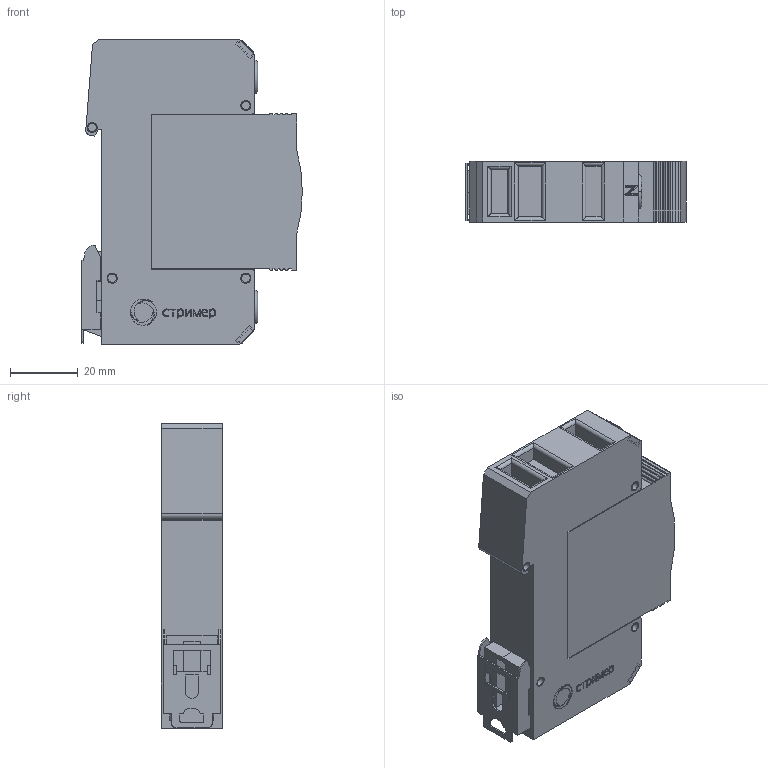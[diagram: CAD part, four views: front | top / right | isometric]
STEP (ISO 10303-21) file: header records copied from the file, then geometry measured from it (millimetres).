
FILE_DESCRIPTION(('TFLEX Exchange Step'),'2;1');
FILE_NAME('X2\041004400442\X0\.121_002.stp', '2022-07-15T15:56:59+03:00',('Pavel Oborin'),('Unknown organisation'),'TFLEX Exchange 2019.2','T-FLEX CAD','Unknown authorisation');
FILE_SCHEMA( ('AUTOMOTIVE_DESIGN { 1 0 10303 214 1 1 1 1 }') );
Length unit declared in the file: millimetre
Products named in the file (7): 0; Буква PE; буква N; Планка; ВНЕШНИЙ МОДУЛЬ 18; Корпус 18; Арт.121_002
Assembly tree (6 placements, depth 2):
  Арт.121_002
    0
    Буква PE
    буква N
    Планка
    ВНЕШНИЙ МОДУЛЬ 18
    Корпус 18
Bounding box: 65.19 x 18.1 x 90.08 mm (x, y, z)
Volume: 84094.6 mm3; surface area: 23937.4 mm2
Topology: 32 solids, 32 shells, 536 faces, 1328 edges, 863 vertices
Faces by surface type: plane 338, cylinder 133, bspline 61, torus 4
Entity records: 21956 total; most frequent: CARTESIAN_POINT 9092, ORIENTED_EDGE 2656, DIRECTION 2468, EDGE_CURVE 1328, VECTOR 966, LINE 966, VERTEX_POINT 863, AXIS2_PLACEMENT_3D 751
